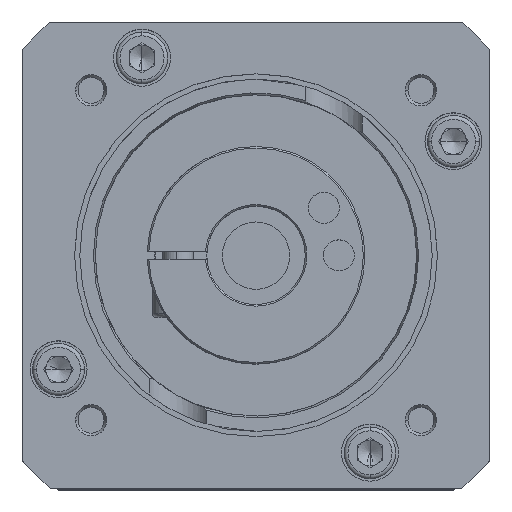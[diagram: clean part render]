
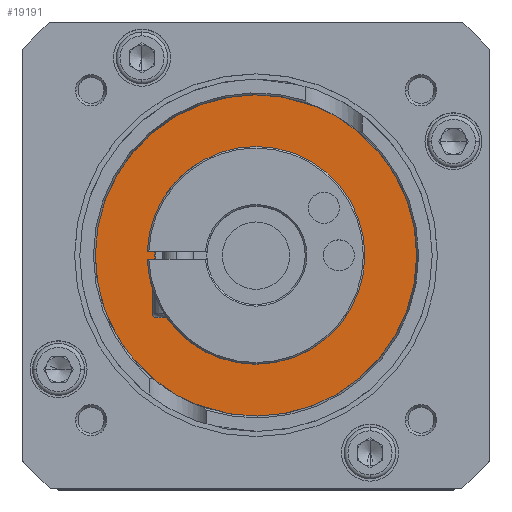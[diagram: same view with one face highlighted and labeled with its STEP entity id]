
A CAD part, top view. The second image highlights one B-rep face of the part: STEP entity #19191.
In plain terms, the highlighted planar face has unit normal (0, 0, 1).
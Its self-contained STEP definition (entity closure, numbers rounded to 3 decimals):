
#607 = VERTEX_POINT ( 'NONE', #26005 ) ;
#1970 = CIRCLE ( 'NONE', #40940, 17.5 ) ;
#2992 = CARTESIAN_POINT ( 'NONE',  ( 9.388, -9.237, 88.75 ) ) ;
#5042 = CARTESIAN_POINT ( 'NONE',  ( 9.388, -9.237, 88.75 ) ) ;
#7222 = CARTESIAN_POINT ( 'NONE',  ( 26.888, -9.237, 88.75 ) ) ;
#7926 = DIRECTION ( 'NONE',  ( 0., 0., 1. ) ) ;
#9033 = CARTESIAN_POINT ( 'NONE',  ( -21.612, -9.237, 88.75 ) ) ;
#10354 = DIRECTION ( 'NONE',  ( 1., 0., 0. ) ) ;
#12282 = ORIENTED_EDGE ( 'NONE', *, *, #38620, .T. ) ;
#13572 = FACE_OUTER_BOUND ( 'NONE', #29355, .T. ) ;
#14424 = CARTESIAN_POINT ( 'NONE',  ( 40.388, -9.237, 88.75 ) ) ;
#14804 = VERTEX_POINT ( 'NONE', #14424 ) ;
#14901 = CIRCLE ( 'NONE', #36634, 31. ) ;
#19154 = CARTESIAN_POINT ( 'NONE',  ( 9.388, -9.237, 88.75 ) ) ;
#19191 = ADVANCED_FACE ( 'NONE', ( #47879, #13572 ), #34552, .T. ) ;
#20449 = ORIENTED_EDGE ( 'NONE', *, *, #38204, .F. ) ;
#21435 = EDGE_CURVE ( 'NONE', #14804, #55462, #44111, .T. ) ;
#22732 = DIRECTION ( 'NONE',  ( 1., 0., 0. ) ) ;
#25088 = DIRECTION ( 'NONE',  ( 0., 0., 1. ) ) ;
#26005 = CARTESIAN_POINT ( 'NONE',  ( -8.112, -9.237, 88.75 ) ) ;
#26097 = EDGE_LOOP ( 'NONE', ( #20449, #50768 ) ) ;
#26320 = DIRECTION ( 'NONE',  ( 1., 0., 0. ) ) ;
#29355 = EDGE_LOOP ( 'NONE', ( #12282, #35160 ) ) ;
#34025 = DIRECTION ( 'NONE',  ( 1., 0., 0. ) ) ;
#34552 = PLANE ( 'NONE',  #53067 ) ;
#35160 = ORIENTED_EDGE ( 'NONE', *, *, #21435, .T. ) ;
#36634 = AXIS2_PLACEMENT_3D ( 'NONE', #47350, #7926, #34025 ) ;
#38204 = EDGE_CURVE ( 'NONE', #607, #55809, #45767, .T. ) ;
#38620 = EDGE_CURVE ( 'NONE', #55462, #14804, #14901, .T. ) ;
#39749 = DIRECTION ( 'NONE',  ( 0., 0., 1. ) ) ;
#40323 = CARTESIAN_POINT ( 'NONE',  ( 9.388, -9.237, 88.75 ) ) ;
#40940 = AXIS2_PLACEMENT_3D ( 'NONE', #19154, #50323, #10354 ) ;
#42413 = DIRECTION ( 'NONE',  ( 1., 0., 0. ) ) ;
#44111 = CIRCLE ( 'NONE', #50479, 31. ) ;
#45767 = CIRCLE ( 'NONE', #53030, 17.5 ) ;
#47317 = DIRECTION ( 'NONE',  ( 0., 0., 1. ) ) ;
#47350 = CARTESIAN_POINT ( 'NONE',  ( 9.388, -9.237, 88.75 ) ) ;
#47879 = FACE_BOUND ( 'NONE', #26097, .T. ) ;
#50323 = DIRECTION ( 'NONE',  ( 0., 0., 1. ) ) ;
#50479 = AXIS2_PLACEMENT_3D ( 'NONE', #40323, #39749, #22732 ) ;
#50768 = ORIENTED_EDGE ( 'NONE', *, *, #52773, .F. ) ;
#52773 = EDGE_CURVE ( 'NONE', #55809, #607, #1970, .T. ) ;
#53030 = AXIS2_PLACEMENT_3D ( 'NONE', #2992, #25088, #42413 ) ;
#53067 = AXIS2_PLACEMENT_3D ( 'NONE', #5042, #47317, #26320 ) ;
#55462 = VERTEX_POINT ( 'NONE', #9033 ) ;
#55809 = VERTEX_POINT ( 'NONE', #7222 ) ;
